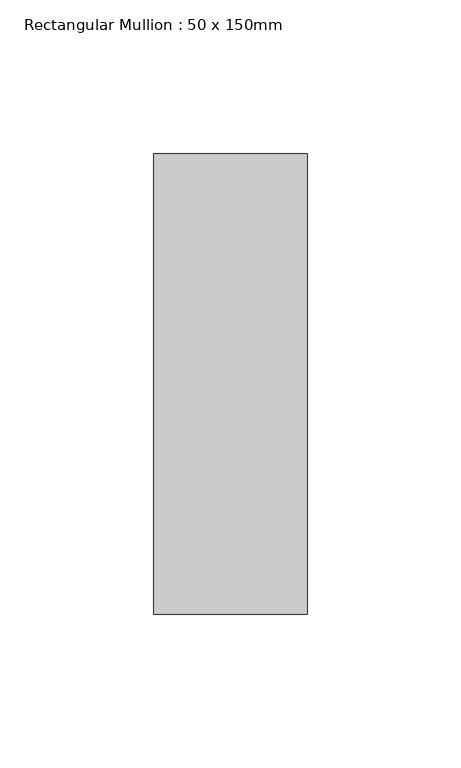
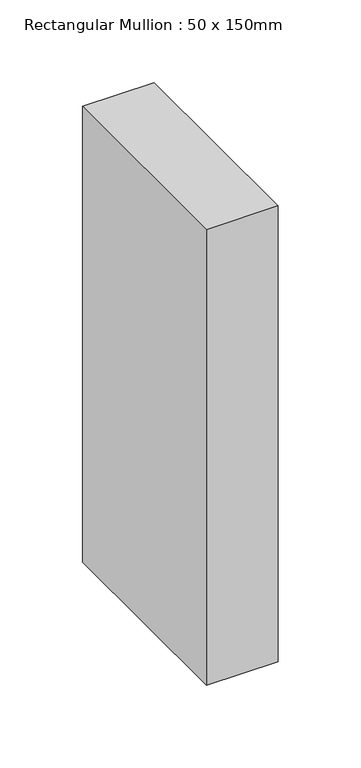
"""IFC4 building model written with IfcOpenShell, lengths in millimetres: member geometry, Rectangular Mullion : 50 x 150mm."""

from ifc_helpers import new_model, si_unit, frame, origin, place, context, project, spatial, polyline, outline, extrude, source, transform, mapped, element, save


def rectangular_mullion_50_x_150mm_526a1b10(model_context):
    return source(origin(), model_context, "Body", "SweptSolid", [
        extrude(outline(polyline([(0.0, 75.0), (0.0, -75.0), (-50.0, -75.0), (-50.0, 75.0), (0.0, 75.0)])), frame((0.0, 0.0, -336.2969934), z_axis=(0.0, 0.0, 1.0), x_axis=(1.0, 0.0, 0.0)), (0.0, 0.0, 1.0), 336.2969934),
    ])


if __name__ == "__main__":
    model = new_model("IFC4")
    model_context = context("Model", 3, world=origin())
    ifc_project = project(units=[si_unit("LENGTHUNIT", "METRE", prefix="MILLI")], contexts=[model_context])
    site = spatial("IfcSite", under=ifc_project)
    building = spatial("IfcBuilding", under=site)
    placement = place(None, origin())
    rectangular_mullion_50_x_150mm_shape = rectangular_mullion_50_x_150mm_526a1b10(model_context)
    element("IfcMember", 1, ObjectType="Rectangular Mullion : 50 x 150mm", at=placement, inside=building, context=model_context, shape_type="MappedRepresentation", body=[
        mapped(rectangular_mullion_50_x_150mm_shape, transform((0.0, 0.0, 0.0), x_axis=(1.0, 0.0, 0.0), y_axis=(0.0, 1.0, 0.0), z_axis=(0.0, 0.0, 1.0))),
    ])
    save(model, "model.ifc")
